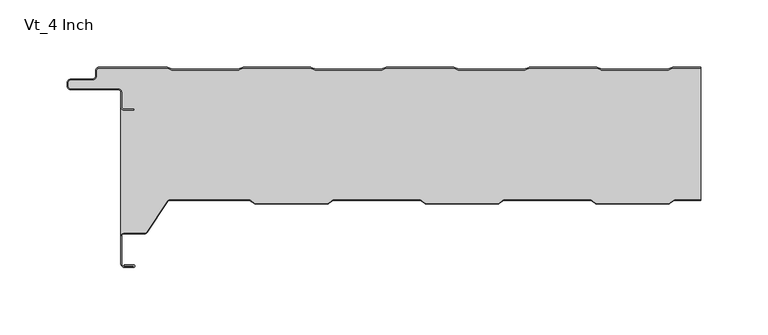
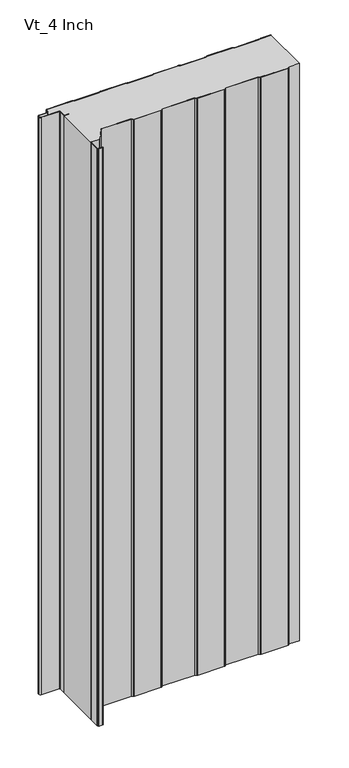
"""IFC4 building model written with IfcOpenShell, lengths in millimetres: plate geometry, KIP_R19_CP_KingSeam_Vt_Roof Panel : Vt_4 Inch."""

from ifc_helpers import new_model, si_unit, point, frame_2d, origin, origin_with_axes, place, context, project, spatial, polyline, circle_curve, trimmed, segment, composite_curve, outline, extrude, source, transform, mapped, element, save


def vt_4_inch_d5f43906(model_context):
    return source(origin(), model_context, "Body", "SweptSolid", [
        extrude(outline(composite_curve([segment(trimmed(circle_curve(frame_2d((-213.9200605, -30.0)), 2.0), [point((-213.9200605, -32.0))], [point((-215.9200605, -30.0))], False, "CARTESIAN"), True, "CONTINUOUS"), segment(polyline([(-215.9200605, -30.0), (-215.9200605, -18.5)]), True, "CONTINUOUS"), segment(trimmed(circle_curve(frame_2d((-217.4200605, -18.5)), 1.5), [point((-215.9200605, -18.5))], [point((-217.4200605, -17.0))], True, "CARTESIAN"), True, "CONTINUOUS"), segment(polyline([(-217.4200605, -17.0), (-252.9200605, -17.0)]), True, "CONTINUOUS"), segment(trimmed(circle_curve(frame_2d((-252.9200605, -14.0)), 3.0), [point((-252.9200605, -17.0))], [point((-255.9200605, -14.0))], False, "CARTESIAN"), True, "CONTINUOUS"), segment(polyline([(-255.9200605, -14.0), (-255.9200605, -12.0)]), True, "CONTINUOUS"), segment(trimmed(circle_curve(frame_2d((-252.9200605, -12.0)), 3.0), [point((-255.9200605, -12.0))], [point((-252.9200605, -9.0))], False, "CARTESIAN"), True, "CONTINUOUS"), segment(polyline([(-252.9200605, -9.0), (-237.2042607, -9.0)]), True, "CONTINUOUS"), segment(trimmed(circle_curve(frame_2d((-237.2042607, -6.5)), 2.5), [point((-237.2042607, -9.0))], [point((-234.7042607, -6.5))], True, "CARTESIAN"), True, "CONTINUOUS"), segment(polyline([(-234.7042607, -6.5), (-234.7042607, -3.0)]), True, "CONTINUOUS"), segment(trimmed(circle_curve(frame_2d((-231.7042607, -3.0)), 3.0), [point((-234.7042607, -3.0))], [point((-231.7042607, 0.0))], False, "CARTESIAN"), True, "CONTINUOUS"), segment(polyline([(-231.7042607, 0.0), (-181.9469381, 0.0)]), True, "CONTINUOUS"), segment(trimmed(circle_curve(frame_2d((-181.9469381, -3.2)), 3.2), [point((-181.9469381, 0.0))], [point((-180.677843, -0.2624164))], False, "CARTESIAN"), True, "CONTINUOUS"), segment(polyline([(-180.677843, -0.2624164), (-178.2877438, -1.2949872)]), True, "CONTINUOUS"), segment(trimmed(circle_curve(frame_2d((-177.2962632, 1.0)), 2.5), [point((-178.2877438, -1.2949872))], [point((-177.2962632, -1.5))], True, "CARTESIAN"), True, "CONTINUOUS"), segment(polyline([(-177.2962632, -1.5), (-128.9122581, -1.5)]), True, "CONTINUOUS"), segment(trimmed(circle_curve(frame_2d((-128.9122581, 1.0)), 2.5), [point((-128.9122581, -1.5))], [point((-127.9207775, -1.2949872))], True, "CARTESIAN"), True, "CONTINUOUS"), segment(polyline([(-127.9207775, -1.2949872), (-125.5306783, -0.2624164)]), True, "CONTINUOUS"), segment(trimmed(circle_curve(frame_2d((-124.2615832, -3.2)), 3.2), [point((-125.5306783, -0.2624164))], [point((-124.2615832, 0.0))], False, "CARTESIAN"), True, "CONTINUOUS"), segment(polyline([(-124.2615832, 0.0), (-75.3469381, 0.0)]), True, "CONTINUOUS"), segment(trimmed(circle_curve(frame_2d((-75.3469381, -3.2)), 3.2), [point((-75.3469381, 0.0))], [point((-74.077843, -0.2624164))], False, "CARTESIAN"), True, "CONTINUOUS"), segment(polyline([(-74.077843, -0.2624164), (-71.6877438, -1.2949872)]), True, "CONTINUOUS"), segment(trimmed(circle_curve(frame_2d((-70.6962632, 1.0)), 2.5), [point((-71.6877438, -1.2949872))], [point((-70.6962632, -1.5))], True, "CARTESIAN"), True, "CONTINUOUS"), segment(polyline([(-70.6962632, -1.5), (-22.3122581, -1.5)]), True, "CONTINUOUS"), segment(trimmed(circle_curve(frame_2d((-22.3122581, 1.0)), 2.5), [point((-22.3122581, -1.5))], [point((-21.3207775, -1.2949872))], True, "CARTESIAN"), True, "CONTINUOUS"), segment(polyline([(-21.3207775, -1.2949872), (-18.9306783, -0.2624164)]), True, "CONTINUOUS"), segment(trimmed(circle_curve(frame_2d((-17.6615832, -3.2)), 3.2), [point((-18.9306783, -0.2624164))], [point((-17.6615832, 0.0))], False, "CARTESIAN"), True, "CONTINUOUS"), segment(polyline([(-17.6615832, 0.0), (31.2530619, 0.0)]), True, "CONTINUOUS"), segment(trimmed(circle_curve(frame_2d((31.2530619, -3.2)), 3.2), [point((31.2530619, 0.0))], [point((32.522157, -0.2624164))], False, "CARTESIAN"), True, "CONTINUOUS"), segment(polyline([(32.522157, -0.2624164), (34.9122562, -1.2949872)]), True, "CONTINUOUS"), segment(trimmed(circle_curve(frame_2d((35.9037368, 1.0)), 2.5), [point((34.9122562, -1.2949872))], [point((35.9037368, -1.5))], True, "CARTESIAN"), True, "CONTINUOUS"), segment(polyline([(35.9037368, -1.5), (84.2877419, -1.5)]), True, "CONTINUOUS"), segment(trimmed(circle_curve(frame_2d((84.2877419, 1.0)), 2.5), [point((84.2877419, -1.5))], [point((85.2792225, -1.2949872))], True, "CARTESIAN"), True, "CONTINUOUS"), segment(polyline([(85.2792225, -1.2949872), (87.6693217, -0.2624164)]), True, "CONTINUOUS"), segment(trimmed(circle_curve(frame_2d((88.9384168, -3.2)), 3.2), [point((87.6693217, -0.2624164))], [point((88.9384168, 0.0))], False, "CARTESIAN"), True, "CONTINUOUS"), segment(polyline([(88.9384168, 0.0), (137.8530619, 0.0)]), True, "CONTINUOUS"), segment(trimmed(circle_curve(frame_2d((137.8530619, -3.2)), 3.2), [point((137.8530619, 0.0))], [point((139.122157, -0.2624164))], False, "CARTESIAN"), True, "CONTINUOUS"), segment(polyline([(139.122157, -0.2624164), (141.5122562, -1.2949872)]), True, "CONTINUOUS"), segment(trimmed(circle_curve(frame_2d((142.5037368, 1.0)), 2.5), [point((141.5122562, -1.2949872))], [point((142.5037368, -1.5))], True, "CARTESIAN"), True, "CONTINUOUS"), segment(polyline([(142.5037368, -1.5), (190.8877419, -1.5)]), True, "CONTINUOUS"), segment(trimmed(circle_curve(frame_2d((190.8877419, 1.0)), 2.5), [point((190.8877419, -1.5))], [point((191.8792225, -1.2949872))], True, "CARTESIAN"), True, "CONTINUOUS"), segment(polyline([(191.8792225, -1.2949872), (194.2693217, -0.2624164)]), True, "CONTINUOUS"), segment(trimmed(circle_curve(frame_2d((195.5384168, -3.2)), 3.2), [point((194.2693217, -0.2624164))], [point((195.5384168, 0.0))], False, "CARTESIAN"), True, "CONTINUOUS"), segment(polyline([(195.5384168, 0.0), (215.9042607, 0.0), (215.9042607, -0.8), (195.5384168, -0.8)]), True, "CONTINUOUS"), segment(trimmed(circle_curve(frame_2d((195.5384168, -3.2)), 2.4), [point((195.5384168, -0.8))], [point((194.5865954, -0.9968123))], True, "CARTESIAN"), True, "CONTINUOUS"), segment(polyline([(194.5865954, -0.9968123), (192.1964962, -2.0293831)]), True, "CONTINUOUS"), segment(trimmed(circle_curve(frame_2d((190.8877419, 1.0)), 3.3), [point((192.1964962, -2.0293831))], [point((190.8877419, -2.3))], False, "CARTESIAN"), True, "CONTINUOUS"), segment(polyline([(190.8877419, -2.3), (142.5037368, -2.3)]), True, "CONTINUOUS"), segment(trimmed(circle_curve(frame_2d((142.5037368, 1.0)), 3.3), [point((142.5037368, -2.3))], [point((141.1949824, -2.0293831))], False, "CARTESIAN"), True, "CONTINUOUS"), segment(polyline([(141.1949824, -2.0293831), (138.8048832, -0.9968123)]), True, "CONTINUOUS"), segment(trimmed(circle_curve(frame_2d((137.8530619, -3.2)), 2.4), [point((138.8048832, -0.9968123))], [point((137.8530619, -0.8))], True, "CARTESIAN"), True, "CONTINUOUS"), segment(polyline([(137.8530619, -0.8), (88.9384168, -0.8)]), True, "CONTINUOUS"), segment(trimmed(circle_curve(frame_2d((88.9384168, -3.2)), 2.4), [point((88.9384168, -0.8))], [point((87.9865954, -0.9968123))], True, "CARTESIAN"), True, "CONTINUOUS"), segment(polyline([(87.9865954, -0.9968123), (85.5964962, -2.0293831)]), True, "CONTINUOUS"), segment(trimmed(circle_curve(frame_2d((84.2877419, 1.0)), 3.3), [point((85.5964962, -2.0293831))], [point((84.2877419, -2.3))], False, "CARTESIAN"), True, "CONTINUOUS"), segment(polyline([(84.2877419, -2.3), (35.9037368, -2.3)]), True, "CONTINUOUS"), segment(trimmed(circle_curve(frame_2d((35.9037368, 1.0)), 3.3), [point((35.9037368, -2.3))], [point((34.5949824, -2.0293831))], False, "CARTESIAN"), True, "CONTINUOUS"), segment(polyline([(34.5949824, -2.0293831), (32.2048832, -0.9968123)]), True, "CONTINUOUS"), segment(trimmed(circle_curve(frame_2d((31.2530619, -3.2)), 2.4), [point((32.2048832, -0.9968123))], [point((31.2530619, -0.8))], True, "CARTESIAN"), True, "CONTINUOUS"), segment(polyline([(31.2530619, -0.8), (-17.6615832, -0.8)]), True, "CONTINUOUS"), segment(trimmed(circle_curve(frame_2d((-17.6615832, -3.2)), 2.4), [point((-17.6615832, -0.8))], [point((-18.6134046, -0.9968123))], True, "CARTESIAN"), True, "CONTINUOUS"), segment(polyline([(-18.6134046, -0.9968123), (-21.0035038, -2.0293831)]), True, "CONTINUOUS"), segment(trimmed(circle_curve(frame_2d((-22.3122581, 1.0)), 3.3), [point((-21.0035038, -2.0293831))], [point((-22.3122581, -2.3))], False, "CARTESIAN"), True, "CONTINUOUS"), segment(polyline([(-22.3122581, -2.3), (-70.6962632, -2.3)]), True, "CONTINUOUS"), segment(trimmed(circle_curve(frame_2d((-70.6962632, 1.0)), 3.3), [point((-70.6962632, -2.3))], [point((-72.0050176, -2.0293831))], False, "CARTESIAN"), True, "CONTINUOUS"), segment(polyline([(-72.0050176, -2.0293831), (-74.3951168, -0.9968123)]), True, "CONTINUOUS"), segment(trimmed(circle_curve(frame_2d((-75.3469381, -3.2)), 2.4), [point((-74.3951168, -0.9968123))], [point((-75.3469381, -0.8))], True, "CARTESIAN"), True, "CONTINUOUS"), segment(polyline([(-75.3469381, -0.8), (-124.2615832, -0.8)]), True, "CONTINUOUS"), segment(trimmed(circle_curve(frame_2d((-124.2615832, -3.2)), 2.4), [point((-124.2615832, -0.8))], [point((-125.2134046, -0.9968123))], True, "CARTESIAN"), True, "CONTINUOUS"), segment(polyline([(-125.2134046, -0.9968123), (-127.6035038, -2.0293831)]), True, "CONTINUOUS"), segment(trimmed(circle_curve(frame_2d((-128.9122581, 1.0)), 3.3), [point((-127.6035038, -2.0293831))], [point((-128.9122581, -2.3))], False, "CARTESIAN"), True, "CONTINUOUS"), segment(polyline([(-128.9122581, -2.3), (-177.2962632, -2.3)]), True, "CONTINUOUS"), segment(trimmed(circle_curve(frame_2d((-177.2962632, 1.0)), 3.3), [point((-177.2962632, -2.3))], [point((-178.6050176, -2.0293831))], False, "CARTESIAN"), True, "CONTINUOUS"), segment(polyline([(-178.6050176, -2.0293831), (-180.9951168, -0.9968123)]), True, "CONTINUOUS"), segment(trimmed(circle_curve(frame_2d((-181.9469381, -3.2)), 2.4), [point((-180.9951168, -0.9968123))], [point((-181.9469381, -0.8))], True, "CARTESIAN"), True, "CONTINUOUS"), segment(polyline([(-181.9469381, -0.8), (-231.7042607, -0.8)]), True, "CONTINUOUS"), segment(trimmed(circle_curve(frame_2d((-232.1480113, -2.8161925)), 2.0644483), [point((-231.7042607, -0.8))], [point((-234.2042607, -3.0))], True, "CARTESIAN"), True, "CONTINUOUS"), segment(polyline([(-234.2042607, -3.0), (-234.2042607, -6.5)]), True, "CONTINUOUS"), segment(trimmed(circle_curve(frame_2d((-237.2042607, -6.5)), 3.0), [point((-234.2042607, -6.5))], [point((-237.2042607, -9.5))], False, "CARTESIAN"), True, "CONTINUOUS"), segment(polyline([(-237.2042607, -9.5), (-252.9200605, -9.5)]), True, "CONTINUOUS"), segment(trimmed(circle_curve(frame_2d((-252.9200605, -12.0)), 2.5), [point((-252.9200605, -9.5))], [point((-255.4200605, -12.0))], True, "CARTESIAN"), True, "CONTINUOUS"), segment(polyline([(-255.4200605, -12.0), (-255.4200605, -14.0)]), True, "CONTINUOUS"), segment(trimmed(circle_curve(frame_2d((-252.9200605, -14.0)), 2.5), [point((-255.4200605, -14.0))], [point((-252.9200605, -16.5))], True, "CARTESIAN"), True, "CONTINUOUS"), segment(polyline([(-252.9200605, -16.5), (-217.4200605, -16.5)]), True, "CONTINUOUS"), segment(trimmed(circle_curve(frame_2d((-217.4200605, -18.5)), 2.0), [point((-217.4200605, -16.5))], [point((-215.4200605, -18.5))], False, "CARTESIAN"), True, "CONTINUOUS"), segment(polyline([(-215.4200605, -18.5), (-215.4200605, -29.7)]), True, "CONTINUOUS"), segment(trimmed(circle_curve(frame_2d((-213.9200605, -29.7)), 1.5), [point((-215.4200605, -29.7))], [point((-213.9200605, -31.2))], True, "CARTESIAN"), True, "CONTINUOUS"), segment(polyline([(-213.9200605, -31.2), (-206.4200605, -31.2), (-206.4200605, -32.0), (-213.9200605, -32.0)]), True, "CONTINUOUS")], self_intersect=False)), origin_with_axes(), (0.0, 0.0, 1.0), 1219.2),
        extrude(outline(composite_curve([segment(polyline([(195.5542167, -0.7999994), (215.9042607, -0.7999994), (215.9042607, -98.8158809), (196.3089613, -98.8158809), (192.849266, -101.3158093)]), True, "CONTINUOUS"), segment(trimmed(circle_curve(frame_2d((191.9707393, -100.1000006)), 1.4999999), [point((192.849266, -101.3158093))], [point((191.9707393, -101.6000006))], False, "CARTESIAN"), True, "CONTINUOUS"), segment(polyline([(191.9707393, -101.6000006), (138.2207394, -101.6000006)]), True, "CONTINUOUS"), segment(trimmed(circle_curve(frame_2d((138.2207394, -100.1000005)), 1.5000001), [point((138.2207394, -101.6000006))], [point((137.3422125, -101.3158092))], False, "CARTESIAN"), True, "CONTINUOUS"), segment(polyline([(137.3422125, -101.3158092), (133.8825178, -98.8158809), (69.3089613, -98.8158809), (65.8492658, -101.3158092)]), True, "CONTINUOUS"), segment(trimmed(circle_curve(frame_2d((64.9707393, -100.1000006)), 1.4999997), [point((65.8492658, -101.3158092))], [point((64.9707393, -101.6000004))], False, "CARTESIAN"), True, "CONTINUOUS"), segment(polyline([(64.9707393, -101.6000004), (11.2207394, -101.6000004)]), True, "CONTINUOUS"), segment(trimmed(circle_curve(frame_2d((11.2207394, -100.1000003)), 1.5000001), [point((11.2207394, -101.6000004))], [point((10.3422125, -101.315809))], False, "CARTESIAN"), True, "CONTINUOUS"), segment(polyline([(10.3422125, -101.315809), (6.8825178, -98.8158807), (-57.6910391, -98.8158807), (-61.1507337, -101.315809)]), True, "CONTINUOUS"), segment(trimmed(circle_curve(frame_2d((-62.0292606, -100.1000001)), 1.5000002), [point((-61.1507337, -101.315809))], [point((-62.0292606, -101.6000003))], False, "CARTESIAN"), True, "CONTINUOUS"), segment(polyline([(-62.0292606, -101.6000003), (-115.7792606, -101.6000003)]), True, "CONTINUOUS"), segment(trimmed(circle_curve(frame_2d((-115.7792606, -100.1000002)), 1.5000002), [point((-115.7792606, -101.6000003))], [point((-116.6577875, -101.315809))], False, "CARTESIAN"), True, "CONTINUOUS"), segment(polyline([(-116.6577875, -101.315809), (-120.1174822, -98.8158807), (-179.2914098, -98.8158807)]), True, "CONTINUOUS"), segment(trimmed(circle_curve(frame_2d((-179.2914098, -101.3158809)), 2.5000002), [point((-179.2914098, -98.8158807))], [point((-181.3764799, -99.9365754))], True, "CARTESIAN"), True, "CONTINUOUS"), segment(polyline([(-181.3764799, -99.9365754), (-196.5799181, -122.9193254)]), True, "CONTINUOUS"), segment(trimmed(circle_curve(frame_2d((-198.2479741, -121.8158811)), 2.0), [point((-196.5799181, -122.9193254))], [point((-198.2479741, -123.8158811))], False, "CARTESIAN"), True, "CONTINUOUS"), segment(polyline([(-198.2479741, -123.8158811), (-213.8042606, -123.8158811)]), True, "CONTINUOUS"), segment(trimmed(circle_curve(frame_2d((-213.8042606, -125.9158809)), 2.0999999), [point((-213.8042606, -123.8158811))], [point((-215.9042605, -125.9158809))], True, "CARTESIAN"), True, "CONTINUOUS"), segment(polyline([(-215.9042605, -125.9158809), (-215.9042605, -29.9999994)]), True, "CONTINUOUS"), segment(trimmed(circle_curve(frame_2d((-213.9042605, -29.9999994)), 2.0), [point((-215.9042605, -29.9999994))], [point((-213.9042605, -31.9999994))], True, "CARTESIAN"), True, "CONTINUOUS"), segment(polyline([(-213.9042605, -31.9999994), (-206.4042605, -31.9999994), (-206.4042605, -31.1999994), (-213.9042605, -31.1999994)]), True, "CONTINUOUS"), segment(trimmed(circle_curve(frame_2d((-213.9042605, -29.6999994)), 1.5), [point((-213.9042605, -31.1999994))], [point((-215.4042605, -29.6999994))], False, "CARTESIAN"), True, "CONTINUOUS"), segment(polyline([(-215.4042605, -29.6999994), (-215.4042605, -18.4999994)]), True, "CONTINUOUS"), segment(trimmed(circle_curve(frame_2d((-217.4042605, -18.4999994)), 2.0), [point((-215.4042605, -18.4999994))], [point((-217.4042605, -16.4999994))], True, "CARTESIAN"), True, "CONTINUOUS"), segment(polyline([(-217.4042605, -16.4999994), (-252.9042605, -16.4999994)]), True, "CONTINUOUS"), segment(trimmed(circle_curve(frame_2d((-252.9042605, -13.9999994)), 2.5), [point((-252.9042605, -16.4999994))], [point((-255.4042605, -13.9999994))], False, "CARTESIAN"), True, "CONTINUOUS"), segment(polyline([(-255.4042605, -13.9999994), (-255.4042605, -11.9999994)]), True, "CONTINUOUS"), segment(trimmed(circle_curve(frame_2d((-252.9042605, -11.9999994)), 2.5), [point((-255.4042605, -11.9999994))], [point((-252.9042605, -9.4999994))], False, "CARTESIAN"), True, "CONTINUOUS"), segment(polyline([(-252.9042605, -9.4999994), (-237.1884607, -9.4999994)]), True, "CONTINUOUS"), segment(trimmed(circle_curve(frame_2d((-237.1884607, -6.4999994)), 3.0), [point((-237.1884607, -9.4999994))], [point((-234.1884607, -6.4999994))], True, "CARTESIAN"), True, "CONTINUOUS"), segment(polyline([(-234.1884607, -6.4999994), (-234.1884607, -2.9999994)]), True, "CONTINUOUS"), segment(trimmed(circle_curve(frame_2d((-232.1322114, -2.8161919)), 2.0644483), [point((-234.1884607, -2.9999994))], [point((-231.6884607, -0.7999994))], False, "CARTESIAN"), True, "CONTINUOUS"), segment(polyline([(-231.6884607, -0.7999994), (-181.9311382, -0.7999994)]), True, "CONTINUOUS"), segment(trimmed(circle_curve(frame_2d((-181.9311382, -3.1999994)), 2.4), [point((-181.9311382, -0.7999994))], [point((-180.9793169, -0.9968117))], False, "CARTESIAN"), True, "CONTINUOUS"), segment(polyline([(-180.9793169, -0.9968117), (-178.5892176, -2.0293826)]), True, "CONTINUOUS"), segment(trimmed(circle_curve(frame_2d((-177.2804633, 1.0000006)), 3.3), [point((-178.5892176, -2.0293826))], [point((-177.2804633, -2.2999994))], True, "CARTESIAN"), True, "CONTINUOUS"), segment(polyline([(-177.2804633, -2.2999994), (-128.8964582, -2.2999994)]), True, "CONTINUOUS"), segment(trimmed(circle_curve(frame_2d((-128.8964582, 1.0000006)), 3.3), [point((-128.8964582, -2.2999994))], [point((-127.5877038, -2.0293826))], True, "CARTESIAN"), True, "CONTINUOUS"), segment(polyline([(-127.5877038, -2.0293826), (-125.1976046, -0.9968117)]), True, "CONTINUOUS"), segment(trimmed(circle_curve(frame_2d((-124.2457833, -3.1999994)), 2.4), [point((-125.1976046, -0.9968117))], [point((-124.2457833, -0.7999994))], False, "CARTESIAN"), True, "CONTINUOUS"), segment(polyline([(-124.2457833, -0.7999994), (-75.3311382, -0.7999994)]), True, "CONTINUOUS"), segment(trimmed(circle_curve(frame_2d((-75.3311382, -3.1999994)), 2.4), [point((-75.3311382, -0.7999994))], [point((-74.3793169, -0.9968117))], False, "CARTESIAN"), True, "CONTINUOUS"), segment(polyline([(-74.3793169, -0.9968117), (-71.9892176, -2.0293826)]), True, "CONTINUOUS"), segment(trimmed(circle_curve(frame_2d((-70.6804633, 1.0000006)), 3.3), [point((-71.9892176, -2.0293826))], [point((-70.6804633, -2.2999994))], True, "CARTESIAN"), True, "CONTINUOUS"), segment(polyline([(-70.6804633, -2.2999994), (-22.2964582, -2.2999994)]), True, "CONTINUOUS"), segment(trimmed(circle_curve(frame_2d((-22.2964582, 1.0000006)), 3.3), [point((-22.2964582, -2.2999994))], [point((-20.9877038, -2.0293826))], True, "CARTESIAN"), True, "CONTINUOUS"), segment(polyline([(-20.9877038, -2.0293826), (-18.5976046, -0.9968117)]), True, "CONTINUOUS"), segment(trimmed(circle_curve(frame_2d((-17.6457833, -3.1999994)), 2.4), [point((-18.5976046, -0.9968117))], [point((-17.6457833, -0.7999994))], False, "CARTESIAN"), True, "CONTINUOUS"), segment(polyline([(-17.6457833, -0.7999994), (31.2688618, -0.7999994)]), True, "CONTINUOUS"), segment(trimmed(circle_curve(frame_2d((31.2688618, -3.1999994)), 2.4), [point((31.2688618, -0.7999994))], [point((32.2206831, -0.9968117))], False, "CARTESIAN"), True, "CONTINUOUS"), segment(polyline([(32.2206831, -0.9968117), (34.6107824, -2.0293826)]), True, "CONTINUOUS"), segment(trimmed(circle_curve(frame_2d((35.9195367, 1.0000006)), 3.3), [point((34.6107824, -2.0293826))], [point((35.9195367, -2.2999994))], True, "CARTESIAN"), True, "CONTINUOUS"), segment(polyline([(35.9195367, -2.2999994), (84.3035418, -2.2999994)]), True, "CONTINUOUS"), segment(trimmed(circle_curve(frame_2d((84.3035418, 1.0000006)), 3.3), [point((84.3035418, -2.2999994))], [point((85.6122962, -2.0293826))], True, "CARTESIAN"), True, "CONTINUOUS"), segment(polyline([(85.6122962, -2.0293826), (88.0023954, -0.9968117)]), True, "CONTINUOUS"), segment(trimmed(circle_curve(frame_2d((88.9542167, -3.1999994)), 2.4), [point((88.0023954, -0.9968117))], [point((88.9542167, -0.7999994))], False, "CARTESIAN"), True, "CONTINUOUS"), segment(polyline([(88.9542167, -0.7999994), (137.8688618, -0.7999994)]), True, "CONTINUOUS"), segment(trimmed(circle_curve(frame_2d((137.8688618, -3.1999994)), 2.4), [point((137.8688618, -0.7999994))], [point((138.8206831, -0.9968117))], False, "CARTESIAN"), True, "CONTINUOUS"), segment(polyline([(138.8206831, -0.9968117), (141.2107824, -2.0293826)]), True, "CONTINUOUS"), segment(trimmed(circle_curve(frame_2d((142.5195367, 1.0000006)), 3.3), [point((141.2107824, -2.0293826))], [point((142.5195367, -2.2999994))], True, "CARTESIAN"), True, "CONTINUOUS"), segment(polyline([(142.5195367, -2.2999994), (190.9035418, -2.2999994)]), True, "CONTINUOUS"), segment(trimmed(circle_curve(frame_2d((190.9035418, 1.0000006)), 3.3), [point((190.9035418, -2.2999994))], [point((192.2122962, -2.0293826))], True, "CARTESIAN"), True, "CONTINUOUS"), segment(polyline([(192.2122962, -2.0293826), (194.6023954, -0.9968117)]), True, "CONTINUOUS"), segment(trimmed(circle_curve(frame_2d((195.5542167, -3.1999994)), 2.4), [point((194.6023954, -0.9968117))], [point((195.5542167, -0.7999994))], False, "CARTESIAN"), True, "CONTINUOUS")], self_intersect=False)), origin_with_axes(), (0.0, 0.0, 1.0), 1219.2),
        extrude(outline(composite_curve([segment(polyline([(196.268218, -98.8158803), (215.9042607, -98.8158803), (215.9042607, -99.3158804), (196.2682176, -99.3158804), (192.8085228, -101.8158085)]), True, "CONTINUOUS"), segment(trimmed(circle_curve(frame_2d((191.929996, -100.5999998)), 1.5), [point((192.8085228, -101.8158085))], [point((191.9290246, -102.0999995))], False, "CARTESIAN"), True, "CONTINUOUS"), segment(polyline([(191.9290246, -102.0999995), (138.1799961, -102.0999995)]), True, "CONTINUOUS"), segment(trimmed(circle_curve(frame_2d((138.1799961, -100.5999995)), 1.5), [point((138.1799961, -102.0999995))], [point((137.3014693, -101.8158082))], False, "CARTESIAN"), True, "CONTINUOUS"), segment(polyline([(137.3014693, -101.8158082), (133.8417751, -99.3158804), (69.2682178, -99.3158804), (65.8085233, -101.8158087)]), True, "CONTINUOUS"), segment(trimmed(circle_curve(frame_2d((64.9299963, -100.5999998)), 1.5000003), [point((65.8085233, -101.8158087))], [point((64.9290248, -102.0999999))], False, "CARTESIAN"), True, "CONTINUOUS"), segment(polyline([(64.9290248, -102.0999999), (11.1799962, -102.0999999)]), True, "CONTINUOUS"), segment(trimmed(circle_curve(frame_2d((11.1799962, -100.5999998)), 1.5), [point((11.1799962, -102.0999999))], [point((10.3014694, -101.8158085))], False, "CARTESIAN"), True, "CONTINUOUS"), segment(polyline([(10.3014694, -101.8158085), (6.8417748, -99.3158804), (-57.7317821, -99.3158804), (-61.191477, -101.8158085)]), True, "CONTINUOUS"), segment(trimmed(circle_curve(frame_2d((-62.0700036, -100.5999999)), 1.4999999), [point((-61.191477, -101.8158085))], [point((-62.0709751, -102.0999995))], False, "CARTESIAN"), True, "CONTINUOUS"), segment(polyline([(-62.0709751, -102.0999995), (-115.8200035, -102.0999995)]), True, "CONTINUOUS"), segment(trimmed(circle_curve(frame_2d((-115.8200035, -100.5999994)), 1.5000001), [point((-115.8200035, -102.0999995))], [point((-116.6985303, -101.8158081))], False, "CARTESIAN"), True, "CONTINUOUS"), segment(polyline([(-116.6985303, -101.8158081), (-120.1582242, -99.3158806), (-179.3321527, -99.3158806)]), True, "CONTINUOUS"), segment(trimmed(circle_curve(frame_2d((-179.3321527, -101.3158804)), 1.9999997), [point((-179.3321527, -99.3158806))], [point((-181.0002085, -100.2124361))], True, "CARTESIAN"), True, "CONTINUOUS"), segment(polyline([(-181.0002085, -100.2124361), (-196.2036471, -123.1951861)]), True, "CONTINUOUS"), segment(trimmed(circle_curve(frame_2d((-198.2887169, -121.8158807)), 2.4999999), [point((-196.2036471, -123.1951861))], [point((-198.2887169, -124.3158806))], False, "CARTESIAN"), True, "CONTINUOUS"), segment(polyline([(-198.2887169, -124.3158806), (-213.8450035, -124.3158806)]), True, "CONTINUOUS"), segment(trimmed(circle_curve(frame_2d((-213.8450035, -125.9158806)), 1.6), [point((-213.8450035, -124.3158806))], [point((-215.4450035, -125.9158806))], True, "CARTESIAN"), True, "CONTINUOUS"), segment(polyline([(-215.4450035, -125.9158806), (-215.4450035, -146.7669597)]), True, "CONTINUOUS"), segment(trimmed(circle_curve(frame_2d((-214.2550035, -146.7669597)), 1.19), [point((-215.4450035, -146.7669597))], [point((-215.0964606, -147.6084168))], True, "CARTESIAN"), True, "CONTINUOUS"), segment(polyline([(-215.0964606, -147.6084168), (-214.0864397, -148.6184377)]), True, "CONTINUOUS"), segment(trimmed(circle_curve(frame_2d((-213.2449826, -147.7769807)), 1.19), [point((-214.0864397, -148.6184377))], [point((-213.2449826, -148.9669807))], True, "CARTESIAN"), True, "CONTINUOUS"), segment(polyline([(-213.2449826, -148.9669807), (-206.5150035, -148.9669807)]), True, "CONTINUOUS"), segment(trimmed(circle_curve(frame_2d((-206.5150035, -148.5669807)), 0.4), [point((-206.5150035, -148.9669807))], [point((-206.5150035, -148.1669807))], True, "CARTESIAN"), True, "CONTINUOUS"), segment(polyline([(-206.5150035, -148.1669807), (-213.2449826, -148.1669807), (-213.2449826, -147.3669807), (-206.5150035, -147.3669807)]), True, "CONTINUOUS"), segment(trimmed(circle_curve(frame_2d((-206.5150035, -148.4169807)), 1.05), [point((-206.5150035, -147.3669807))], [point((-206.5150035, -149.4669807))], False, "CARTESIAN"), True, "CONTINUOUS"), segment(polyline([(-206.5150035, -149.4669807), (-213.2449826, -149.4669807)]), True, "CONTINUOUS"), segment(trimmed(circle_curve(frame_2d((-213.2449826, -147.7769807)), 1.69), [point((-213.2449826, -149.4669807))], [point((-214.4399932, -148.971991))], False, "CARTESIAN"), True, "CONTINUOUS"), segment(polyline([(-214.4399932, -148.971991), (-215.450014, -147.96197)]), True, "CONTINUOUS"), segment(trimmed(circle_curve(frame_2d((-214.2550035, -146.7669597)), 1.6899998), [point((-215.450014, -147.96197))], [point((-215.9450033, -146.7669597))], False, "CARTESIAN"), True, "CONTINUOUS"), segment(polyline([(-215.9450033, -146.7669597), (-215.9450033, -125.9158805)]), True, "CONTINUOUS"), segment(trimmed(circle_curve(frame_2d((-213.8450035, -125.9158805)), 2.0999998), [point((-215.9450033, -125.9158805))], [point((-213.8450035, -123.8158807))], False, "CARTESIAN"), True, "CONTINUOUS"), segment(polyline([(-213.8450035, -123.8158807), (-198.2887169, -123.8158807)]), True, "CONTINUOUS"), segment(trimmed(circle_curve(frame_2d((-198.2887169, -121.8158807)), 2.0), [point((-198.2887169, -123.8158807))], [point((-196.620661, -122.919325))], True, "CARTESIAN"), True, "CONTINUOUS"), segment(polyline([(-196.620661, -122.919325), (-181.4172227, -99.9365749)]), True, "CONTINUOUS"), segment(trimmed(circle_curve(frame_2d((-179.3321527, -101.3158804)), 2.5), [point((-181.4172227, -99.9365749))], [point((-179.3321527, -98.8158803))], False, "CARTESIAN"), True, "CONTINUOUS"), segment(polyline([(-179.3321527, -98.8158803), (-120.1582251, -98.8158803), (-116.6985304, -101.3158086)]), True, "CONTINUOUS"), segment(trimmed(circle_curve(frame_2d((-115.8200035, -100.0999998)), 1.5000002), [point((-116.6985304, -101.3158086))], [point((-115.8200035, -101.5999999))], True, "CARTESIAN"), True, "CONTINUOUS"), segment(polyline([(-115.8200035, -101.5999999), (-62.0700036, -101.5999999)]), True, "CONTINUOUS"), segment(trimmed(circle_curve(frame_2d((-62.0700036, -100.0999999)), 1.5), [point((-62.0700036, -101.5999999))], [point((-61.1914768, -101.3158086))], True, "CARTESIAN"), True, "CONTINUOUS"), segment(polyline([(-61.1914768, -101.3158086), (-57.7317821, -98.8158803), (6.8417748, -98.8158803), (10.3014694, -101.3158087)]), True, "CONTINUOUS"), segment(trimmed(circle_curve(frame_2d((11.1799962, -100.1000001)), 1.5), [point((10.3014694, -101.3158087))], [point((11.1799962, -101.6000001))], True, "CARTESIAN"), True, "CONTINUOUS"), segment(polyline([(11.1799962, -101.6000001), (64.9299962, -101.6000001)]), True, "CONTINUOUS"), segment(trimmed(circle_curve(frame_2d((64.9299962, -100.1000001)), 1.5), [point((64.9299962, -101.6000001))], [point((65.808523, -101.3158088))], True, "CARTESIAN"), True, "CONTINUOUS"), segment(polyline([(65.808523, -101.3158088), (69.2682182, -98.8158803), (133.8417747, -98.8158803), (137.3014693, -101.3158086)]), True, "CONTINUOUS"), segment(trimmed(circle_curve(frame_2d((138.1799961, -100.0999999)), 1.5), [point((137.3014693, -101.3158086))], [point((138.1799961, -101.5999999))], True, "CARTESIAN"), True, "CONTINUOUS"), segment(polyline([(138.1799961, -101.5999999), (191.929996, -101.5999999)]), True, "CONTINUOUS"), segment(trimmed(circle_curve(frame_2d((191.929996, -100.1000001)), 1.4999998), [point((191.929996, -101.5999999))], [point((192.8085226, -101.3158087))], True, "CARTESIAN"), True, "CONTINUOUS"), segment(polyline([(192.8085226, -101.3158087), (196.268218, -98.8158803)]), True, "CONTINUOUS")], self_intersect=False)), origin_with_axes(), (0.0, 0.0, 1.0), 1219.2),
    ])


if __name__ == "__main__":
    model = new_model("IFC4")
    model_context = context("Model", 3, world=origin())
    ifc_project = project(units=[si_unit("LENGTHUNIT", "METRE", prefix="MILLI")], contexts=[model_context])
    site = spatial("IfcSite", under=ifc_project)
    building = spatial("IfcBuilding", under=site)
    placement = place(None, origin())
    vt_4_inch_shape = vt_4_inch_d5f43906(model_context)
    element("IfcPlate", 1, ObjectType="KIP_R19_CP_KingSeam_Vt_Roof Panel : Vt_4 Inch", at=placement, inside=building, context=model_context, shape_type="MappedRepresentation", body=[
        mapped(vt_4_inch_shape, transform((0.0, 0.0, 0.0), x_axis=(1.0, 0.0, 0.0), y_axis=(0.0, 1.0, 0.0), z_axis=(0.0, 0.0, 1.0))),
    ])
    save(model, "model.ifc")
